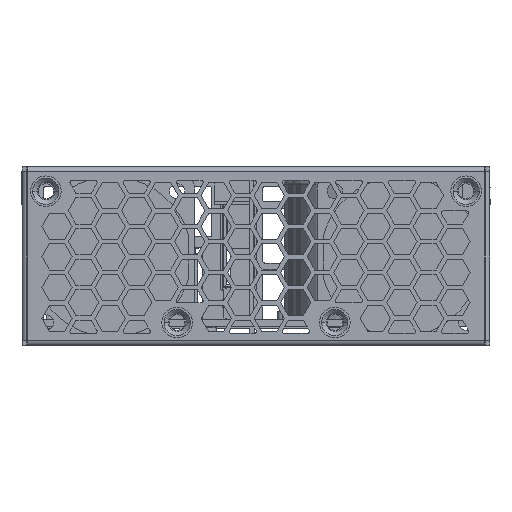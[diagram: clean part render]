
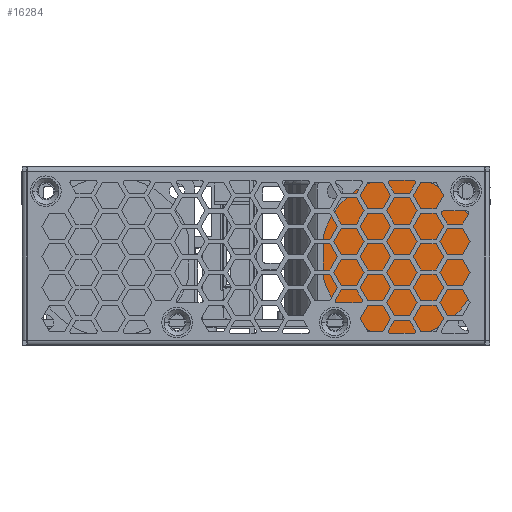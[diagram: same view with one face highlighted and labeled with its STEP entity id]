
A CAD part, front view. The second image highlights one B-rep face of the part: STEP entity #16284.
In plain terms, the highlighted planar face has unit normal (0, -1, 0).
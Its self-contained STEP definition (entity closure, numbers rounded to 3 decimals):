
#15596=DIRECTION('',(0.,0.,-1.));
#15597=VECTOR('',#15596,9.364);
#15598=CARTESIAN_POINT('',(117.463,82.928,25.882));
#15599=LINE('',#15598,#15597);
#15608=CARTESIAN_POINT('',(99.787,82.928,21.2));
#15609=DIRECTION('',(0.,-1.,0.));
#15610=DIRECTION('',(0.256,0.,-0.967));
#15611=AXIS2_PLACEMENT_3D('',#15608,#15609,#15610);
#15613=CARTESIAN_POINT('',(99.787,82.928,21.2));
#15614=DIRECTION('',(0.,-1.,0.));
#15615=DIRECTION('',(-0.967,0.,-0.256));
#15616=AXIS2_PLACEMENT_3D('',#15613,#15614,#15615);
#15618=CARTESIAN_POINT('',(99.787,82.928,21.2));
#15619=DIRECTION('',(0.,-1.,0.));
#15620=DIRECTION('',(-0.256,0.,0.967));
#15621=AXIS2_PLACEMENT_3D('',#15618,#15619,#15620);
#15623=CARTESIAN_POINT('',(99.787,82.928,21.2));
#15624=DIRECTION('',(0.,-1.,0.));
#15625=DIRECTION('',(0.967,0.,0.256));
#15626=AXIS2_PLACEMENT_3D('',#15623,#15624,#15625);
#15632=DIRECTION('',(-1.,0.,0.));
#15633=VECTOR('',#15632,9.364);
#15634=CARTESIAN_POINT('',(104.469,82.928,3.524));
#15635=LINE('',#15634,#15633);
#15648=DIRECTION('',(0.,0.,1.));
#15649=VECTOR('',#15648,9.364);
#15650=CARTESIAN_POINT('',(82.111,82.928,16.518));
#15651=LINE('',#15650,#15649);
#15668=DIRECTION('',(1.,0.,0.));
#15669=VECTOR('',#15668,9.364);
#15670=CARTESIAN_POINT('',(95.105,82.928,38.876));
#15671=LINE('',#15670,#15669);
#15744=CARTESIAN_POINT('',(104.469,82.928,3.524));
#15745=CARTESIAN_POINT('',(117.463,82.928,16.518));
#15746=VERTEX_POINT('',#15744);
#15747=VERTEX_POINT('',#15745);
#15748=CARTESIAN_POINT('',(117.463,82.928,25.882));
#15749=VERTEX_POINT('',#15748);
#15750=CARTESIAN_POINT('',(104.469,82.928,38.876));
#15751=VERTEX_POINT('',#15750);
#15752=CARTESIAN_POINT('',(95.105,82.928,38.876));
#15753=VERTEX_POINT('',#15752);
#15754=CARTESIAN_POINT('',(82.111,82.928,25.882));
#15755=VERTEX_POINT('',#15754);
#15756=CARTESIAN_POINT('',(82.111,82.928,16.518));
#15757=VERTEX_POINT('',#15756);
#15758=CARTESIAN_POINT('',(95.105,82.928,3.524));
#15759=VERTEX_POINT('',#15758);
#16263=CARTESIAN_POINT('',(99.787,82.928,21.2));
#16264=DIRECTION('',(0.,1.,0.));
#16265=DIRECTION('',(-1.,0.,0.));
#16266=AXIS2_PLACEMENT_3D('',#16263,#16264,#16265);
#16267=PLANE('',#16266);
#16268=ORIENTED_EDGE('',*,*,#16247,.F.);
#16270=ORIENTED_EDGE('',*,*,#16269,.T.);
#16272=ORIENTED_EDGE('',*,*,#16271,.F.);
#16274=ORIENTED_EDGE('',*,*,#16273,.T.);
#16276=ORIENTED_EDGE('',*,*,#16275,.F.);
#16278=ORIENTED_EDGE('',*,*,#16277,.T.);
#16280=ORIENTED_EDGE('',*,*,#16279,.F.);
#16281=ORIENTED_EDGE('',*,*,#16228,.T.);
#16282=EDGE_LOOP('',(#16268,#16270,#16272,#16274,#16276,#16278,#16280,#16281));
#16283=FACE_OUTER_BOUND('',#16282,.F.);
#15612=CIRCLE('',#15611,18.286);
#15617=CIRCLE('',#15616,18.286);
#15622=CIRCLE('',#15621,18.286);
#15627=CIRCLE('',#15626,18.286);
#16228=EDGE_CURVE('',#15749,#15747,#15599,.T.);
#16247=EDGE_CURVE('',#15746,#15747,#15612,.T.);
#16269=EDGE_CURVE('',#15746,#15759,#15635,.T.);
#16271=EDGE_CURVE('',#15757,#15759,#15617,.T.);
#16273=EDGE_CURVE('',#15757,#15755,#15651,.T.);
#16275=EDGE_CURVE('',#15753,#15755,#15622,.T.);
#16277=EDGE_CURVE('',#15753,#15751,#15671,.T.);
#16279=EDGE_CURVE('',#15749,#15751,#15627,.T.);
#16284=ADVANCED_FACE('',(#16283),#16267,.F.);
